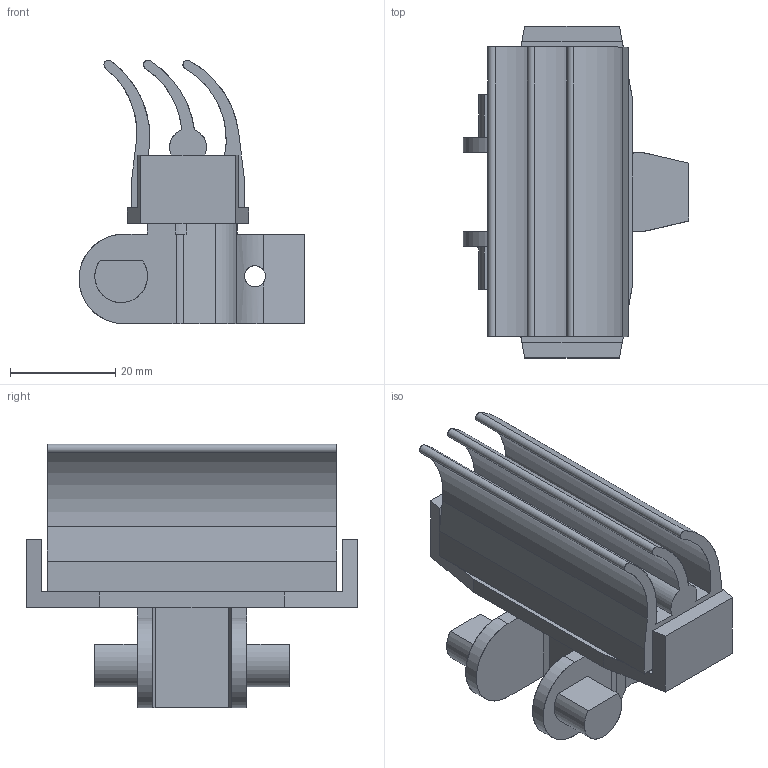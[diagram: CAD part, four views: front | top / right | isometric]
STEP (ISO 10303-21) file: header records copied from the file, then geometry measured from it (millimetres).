
FILE_DESCRIPTION (( 'STEP AP214' ), '1' );
FILE_NAME ('FSWT-5C.STEP', '2011-09-28T08:10:36', ( '.' ), ( '' ), 'SwSTEP 2.0', 'SolidWorks 2010', '' );
FILE_SCHEMA (( 'AUTOMOTIVE_DESIGN' ));
Length unit declared in the file: millimetre
Products named in the file (1): FSWT-5C
Bounding box: 42.9 x 63 x 50 mm (x, y, z)
Surface area: 16146.2 mm2 (no closed solid volume)
Topology: 0 solids, 80 shells, 82 faces, 429 edges, 426 vertices
Faces by surface type: plane 54, cylinder 28
Entity records: 6066 total; most frequent: CARTESIAN_POINT 2875, DIRECTION 585, ORIENTED_EDGE 432, EDGE_CURVE 429, VERTEX_POINT 426, LINE 315, VECTOR 315, AXIS2_PLACEMENT_3D 135
